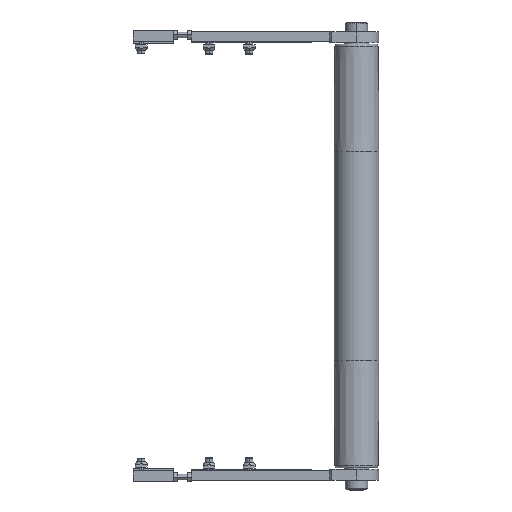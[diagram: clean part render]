
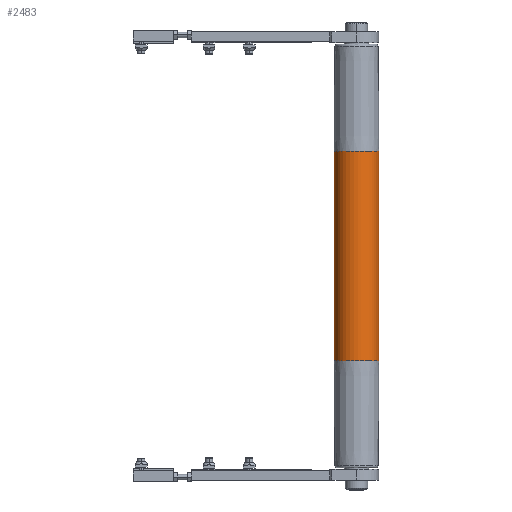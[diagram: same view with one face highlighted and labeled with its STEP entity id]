
A CAD part, front view. The second image highlights one B-rep face of the part: STEP entity #2483.
In plain terms, the highlighted cylindrical face has radius 25 mm (diameter 50 mm), a partial arc.
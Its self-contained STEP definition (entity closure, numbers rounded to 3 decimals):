
#377 = DIRECTION ( 'NONE',  ( -1., 0., 0. ) ) ;
#561 = CIRCLE ( 'NONE', #1001, 25. ) ;
#1001 = AXIS2_PLACEMENT_3D ( 'NONE', #3053, #3884, #10593 ) ;
#1110 = DIRECTION ( 'NONE',  ( -1., 0., 0. ) ) ;
#1237 = VECTOR ( 'NONE', #377, 1000. ) ;
#1434 = VERTEX_POINT ( 'NONE', #10087 ) ;
#1456 = CARTESIAN_POINT ( 'NONE',  ( 117.5, 0., -25. ) ) ;
#1719 = CYLINDRICAL_SURFACE ( 'NONE', #11628, 25. ) ;
#1784 = DIRECTION ( 'NONE',  ( -1., 0., 0. ) ) ;
#2483 = ADVANCED_FACE ( 'NONE', ( #9056 ), #1719, .T. ) ;
#2602 = CARTESIAN_POINT ( 'NONE',  ( -117.5, 0., -25. ) ) ;
#3046 = LINE ( 'NONE', #6958, #1237 ) ;
#3053 = CARTESIAN_POINT ( 'NONE',  ( 117.5, 0., 0. ) ) ;
#3315 = DIRECTION ( 'NONE',  ( 0., 0., 1. ) ) ;
#3844 = CARTESIAN_POINT ( 'NONE',  ( 235., 0., 25. ) ) ;
#3884 = DIRECTION ( 'NONE',  ( -1., 0., 0. ) ) ;
#3886 = EDGE_CURVE ( 'NONE', #8119, #1434, #5727, .T. ) ;
#4218 = DIRECTION ( 'NONE',  ( 1., 0., 0. ) ) ;
#5239 = EDGE_LOOP ( 'NONE', ( #9090, #5693, #6892, #10203 ) ) ;
#5281 = CARTESIAN_POINT ( 'NONE',  ( 117.5, 0., 25. ) ) ;
#5693 = ORIENTED_EDGE ( 'NONE', *, *, #9091, .T. ) ;
#5727 = LINE ( 'NONE', #3844, #11601 ) ;
#6776 = EDGE_CURVE ( 'NONE', #12035, #1434, #12307, .T. ) ;
#6892 = ORIENTED_EDGE ( 'NONE', *, *, #6776, .T. ) ;
#6958 = CARTESIAN_POINT ( 'NONE',  ( 235., 0., -25. ) ) ;
#7361 = AXIS2_PLACEMENT_3D ( 'NONE', #9972, #4218, #3315 ) ;
#8119 = VERTEX_POINT ( 'NONE', #5281 ) ;
#9056 = FACE_OUTER_BOUND ( 'NONE', #5239, .T. ) ;
#9090 = ORIENTED_EDGE ( 'NONE', *, *, #12348, .T. ) ;
#9091 = EDGE_CURVE ( 'NONE', #9161, #12035, #3046, .T. ) ;
#9161 = VERTEX_POINT ( 'NONE', #1456 ) ;
#9972 = CARTESIAN_POINT ( 'NONE',  ( -117.5, 0., 0. ) ) ;
#10087 = CARTESIAN_POINT ( 'NONE',  ( -117.5, 0., 25. ) ) ;
#10203 = ORIENTED_EDGE ( 'NONE', *, *, #3886, .F. ) ;
#10593 = DIRECTION ( 'NONE',  ( 0., 0., 1. ) ) ;
#10844 = DIRECTION ( 'NONE',  ( 0., 0., 1. ) ) ;
#11601 = VECTOR ( 'NONE', #1784, 1000. ) ;
#11628 = AXIS2_PLACEMENT_3D ( 'NONE', #11760, #1110, #10844 ) ;
#11760 = CARTESIAN_POINT ( 'NONE',  ( 235., 0., 0. ) ) ;
#12035 = VERTEX_POINT ( 'NONE', #2602 ) ;
#12307 = CIRCLE ( 'NONE', #7361, 25. ) ;
#12348 = EDGE_CURVE ( 'NONE', #8119, #9161, #561, .T. ) ;
